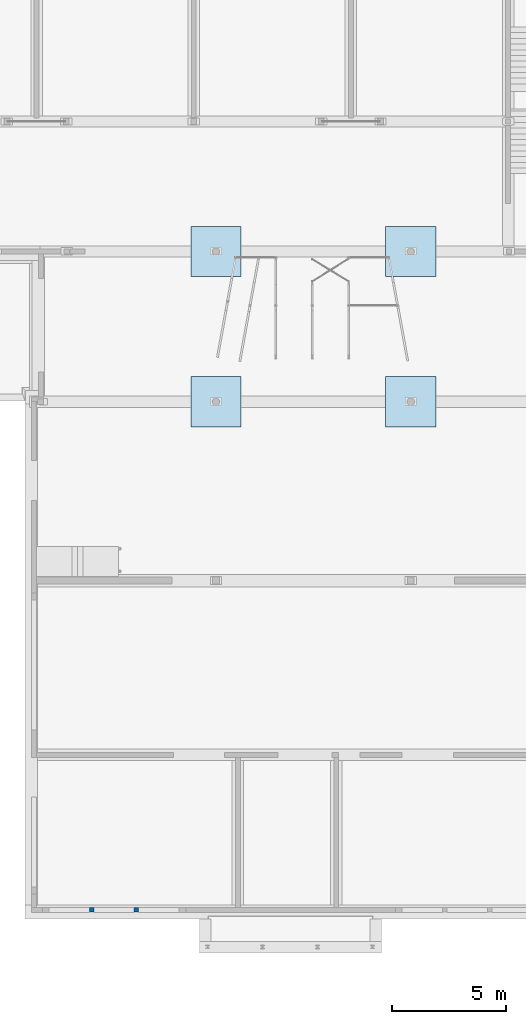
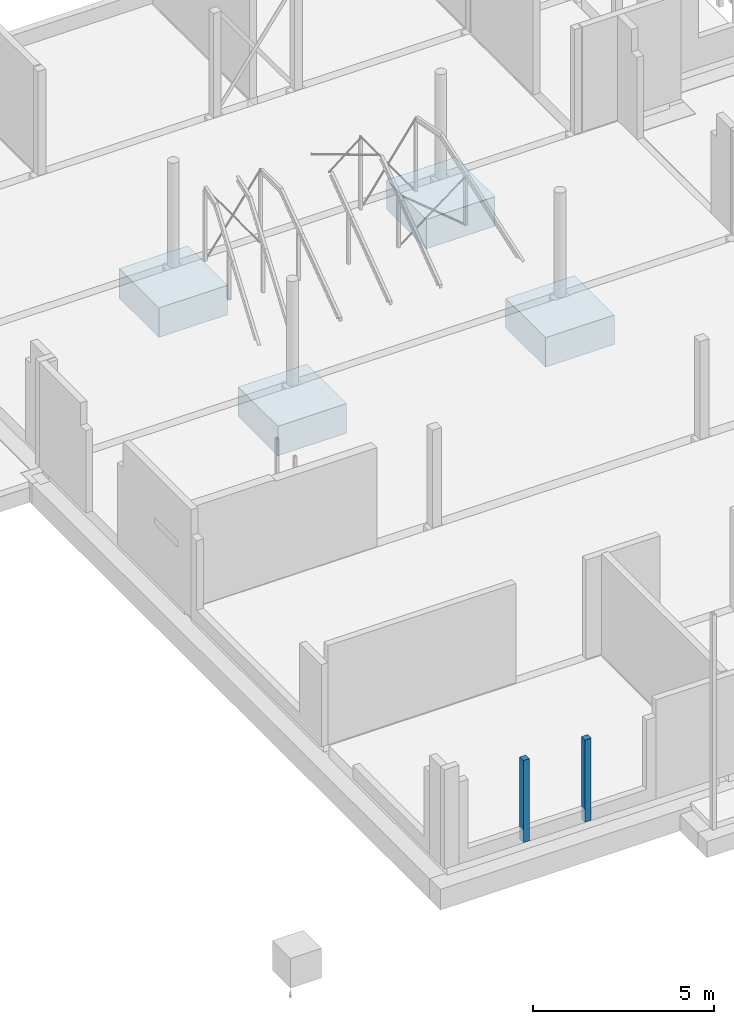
# One storey, part 1 of 17: 4 footings, 2 columns.
"""IFC2X3 building model written with IfcOpenShell, lengths in millimetres."""

from ifc_helpers import new_model, entity, si_unit, converted_unit, derived_unit, direction, frame, frame_2d, origin, place, context, subcontext, project, spatial, polyline, rectangle, outline, extrude, source, transform, mapped, material, material_list, type_object, type_shapes, element, save


model = new_model("IFC2X3")

# Units and contexts
model_context = context("Model", 3, precision=0.01, world=origin(), true_north=direction((6.123031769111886e-17, 1.0)))
body_context = subcontext(model_context, "Body", "Model", "MODEL_VIEW")
ifc_project = project(units=[si_unit("LENGTHUNIT", "METRE", prefix="MILLI"), si_unit("AREAUNIT", "SQUARE_METRE", prefix="MILLI"), si_unit("VOLUMEUNIT", "CUBIC_METRE"), converted_unit("PLANEANGLEUNIT", "DEGREE", entity("IfcPlaneAngleMeasure", 0.017453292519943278), si_unit("PLANEANGLEUNIT", "RADIAN"), dimensions=[0, 0, 0, 0, 0, 0, 0]), si_unit("MASSUNIT", "GRAM", prefix="KILO"), derived_unit("MASSDENSITYUNIT", [(si_unit("MASSUNIT", "GRAM", prefix="KILO"), 1), (si_unit("LENGTHUNIT", "METRE"), -3)]), derived_unit("IONCONCENTRATIONUNIT", [(si_unit("MASSUNIT", "GRAM", prefix="KILO"), 1), (si_unit("LENGTHUNIT", "METRE"), -3)]), derived_unit("MOMENTOFINERTIAUNIT", [(si_unit("LENGTHUNIT", "METRE"), 4)]), si_unit("TIMEUNIT", "SECOND"), si_unit("FREQUENCYUNIT", "HERTZ"), si_unit("THERMODYNAMICTEMPERATUREUNIT", "DEGREE_CELSIUS"), derived_unit("THERMALTRANSMITTANCEUNIT", [(si_unit("MASSUNIT", "GRAM", prefix="KILO"), 1), (si_unit("THERMODYNAMICTEMPERATUREUNIT", "KELVIN"), -1), (si_unit("TIMEUNIT", "SECOND"), -3)]), derived_unit("THERMALCONDUCTANCEUNIT", [(si_unit("MASSUNIT", "GRAM", prefix="KILO"), 1), (si_unit("THERMODYNAMICTEMPERATUREUNIT", "KELVIN"), -1), (si_unit("TIMEUNIT", "SECOND"), -3), (si_unit("LENGTHUNIT", "METRE"), 1)]), derived_unit("VOLUMETRICFLOWRATEUNIT", [(si_unit("LENGTHUNIT", "METRE", prefix="DECI"), 3), (si_unit("TIMEUNIT", "SECOND"), -1)]), derived_unit("MASSFLOWRATEUNIT", [(si_unit("MASSUNIT", "GRAM", prefix="KILO"), 1), (si_unit("TIMEUNIT", "SECOND"), -1)]), derived_unit("ROTATIONALFREQUENCYUNIT", [(si_unit("TIMEUNIT", "SECOND"), -1)]), si_unit("ELECTRICCURRENTUNIT", "AMPERE"), si_unit("ELECTRICVOLTAGEUNIT", "VOLT"), si_unit("POWERUNIT", "WATT"), si_unit("FORCEUNIT", "NEWTON", prefix="KILO"), si_unit("ILLUMINANCEUNIT", "LUX"), si_unit("LUMINOUSFLUXUNIT", "LUMEN"), si_unit("LUMINOUSINTENSITYUNIT", "CANDELA"), si_unit("ENERGYUNIT", "JOULE"), derived_unit("USERDEFINED", [(si_unit("MASSUNIT", "GRAM", prefix="KILO"), -1), (si_unit("LENGTHUNIT", "METRE"), -2), (si_unit("TIMEUNIT", "SECOND"), 3), (si_unit("LUMINOUSFLUXUNIT", "LUMEN"), 1)]), derived_unit("USERDEFINED", [(si_unit("MASSUNIT", "GRAM", prefix="KILO"), 1), (si_unit("TIMEUNIT", "SECOND"), -3), (si_unit("LENGTHUNIT", "METRE"), 3), (si_unit("ELECTRICCURRENTUNIT", "AMPERE"), -2)]), derived_unit("SOUNDPOWERUNIT", [(si_unit("MASSUNIT", "GRAM", prefix="KILO"), 1), (si_unit("TIMEUNIT", "SECOND"), -3), (si_unit("LENGTHUNIT", "METRE"), 2)]), derived_unit("SOUNDPRESSUREUNIT", [(si_unit("MASSUNIT", "GRAM", prefix="KILO"), 1), (si_unit("LENGTHUNIT", "METRE"), -1), (si_unit("TIMEUNIT", "SECOND"), -2)]), derived_unit("LINEARVELOCITYUNIT", [(si_unit("LENGTHUNIT", "METRE"), 1), (si_unit("TIMEUNIT", "SECOND"), -1)]), si_unit("PRESSUREUNIT", "PASCAL"), derived_unit("USERDEFINED", [(si_unit("MASSUNIT", "GRAM", prefix="KILO"), 1), (si_unit("LENGTHUNIT", "METRE"), -2), (si_unit("TIMEUNIT", "SECOND"), -2)]), derived_unit("LINEARFORCEUNIT", [(si_unit("MASSUNIT", "GRAM", prefix="KILO"), 1), (si_unit("TIMEUNIT", "SECOND"), -2)]), derived_unit("PLANARFORCEUNIT", [(si_unit("MASSUNIT", "GRAM", prefix="KILO"), 1), (si_unit("LENGTHUNIT", "METRE"), -1), (si_unit("TIMEUNIT", "SECOND"), -2)]), derived_unit("SPECIFICHEATCAPACITYUNIT", [(si_unit("THERMODYNAMICTEMPERATUREUNIT", "KELVIN"), -1), (si_unit("LENGTHUNIT", "METRE"), 2), (si_unit("TIMEUNIT", "SECOND"), -2)]), derived_unit("HEATFLUXDENSITYUNIT", [(si_unit("MASSUNIT", "GRAM", prefix="KILO"), 1), (si_unit("TIMEUNIT", "SECOND"), -3)]), derived_unit("HEATINGVALUEUNIT", [(si_unit("LENGTHUNIT", "METRE"), 2), (si_unit("TIMEUNIT", "SECOND"), -2)]), derived_unit("VAPORPERMEABILITYUNIT", [(si_unit("LENGTHUNIT", "METRE"), -1), (si_unit("TIMEUNIT", "SECOND"), 1)]), derived_unit("DYNAMICVISCOSITYUNIT", [(si_unit("MASSUNIT", "GRAM", prefix="KILO"), 1), (si_unit("TIMEUNIT", "SECOND"), -1), (si_unit("LENGTHUNIT", "METRE"), -1)]), derived_unit("THERMALEXPANSIONCOEFFICIENTUNIT", [(si_unit("THERMODYNAMICTEMPERATUREUNIT", "KELVIN"), -1)]), derived_unit("MODULUSOFELASTICITYUNIT", [(si_unit("MASSUNIT", "GRAM", prefix="KILO"), 1), (si_unit("LENGTHUNIT", "METRE"), -1), (si_unit("TIMEUNIT", "SECOND"), -2)]), derived_unit("ISOTHERMALMOISTURECAPACITYUNIT", [(si_unit("MASSUNIT", "GRAM", prefix="KILO"), -1), (si_unit("LENGTHUNIT", "METRE"), 3)]), derived_unit("MOISTUREDIFFUSIVITYUNIT", [(si_unit("TIMEUNIT", "SECOND"), -1), (si_unit("LENGTHUNIT", "METRE"), 2)]), derived_unit("MASSPERLENGTHUNIT", [(si_unit("MASSUNIT", "GRAM", prefix="KILO"), 1), (si_unit("LENGTHUNIT", "METRE"), -1)]), derived_unit("THERMALRESISTANCEUNIT", [(si_unit("MASSUNIT", "GRAM", prefix="KILO"), -1), (si_unit("TIMEUNIT", "SECOND"), 3), (si_unit("THERMODYNAMICTEMPERATUREUNIT", "KELVIN"), 1)]), derived_unit("ACCELERATIONUNIT", [(si_unit("LENGTHUNIT", "METRE"), 1), (si_unit("TIMEUNIT", "SECOND"), -2)]), derived_unit("ANGULARVELOCITYUNIT", [(si_unit("TIMEUNIT", "SECOND"), -1), (si_unit("PLANEANGLEUNIT", "RADIAN"), 1)]), derived_unit("LINEARSTIFFNESSUNIT", [(si_unit("MASSUNIT", "GRAM", prefix="KILO"), 1), (si_unit("TIMEUNIT", "SECOND"), -2)]), derived_unit("WARPINGCONSTANTUNIT", [(si_unit("LENGTHUNIT", "METRE"), 6)]), derived_unit("LINEARMOMENTUNIT", [(si_unit("MASSUNIT", "GRAM", prefix="KILO"), 1), (si_unit("LENGTHUNIT", "METRE"), 1), (si_unit("TIMEUNIT", "SECOND"), -2)]), derived_unit("TORQUEUNIT", [(si_unit("MASSUNIT", "GRAM", prefix="KILO"), 1), (si_unit("LENGTHUNIT", "METRE"), 2), (si_unit("TIMEUNIT", "SECOND"), -2)])], contexts=[model_context])

# Site, building, storey
site_placement = place(None, origin())
site = spatial("IfcSite", under=ifc_project, at=site_placement, Name="Default", CompositionType="ELEMENT")
building_placement = place(site_placement, origin())
building = spatial("IfcBuilding", under=site, at=building_placement, CompositionType="ELEMENT")
storey_placement = place(building_placement, frame((0.0, 0.0, -70.0)))
storey = spatial("IfcBuildingStorey", under=building, at=storey_placement, Name="F1 begg (bk ruwe vloer)", CompositionType="ELEMENT", Elevation=-69.99999999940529)

# Footings
ifc_material_1 = material(Name="Beton, ihwg C30/37")
type_product_1 = type_object("IfcTypeProduct", Name="btl_ihwg - Poer 4-hoek:2200x2200x1000 4pp", material=ifc_material_1)
shared_shape_1 = source(origin(), body_context, "Body", "SweptSolid", [
    extrude(rectangle(XDim=2200.0, YDim=2199.999999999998, at=frame_2d((-1.0231815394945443e-12, -2.1600499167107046e-12), x_axis=(1.0, 0.0))), frame((14699.863108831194, 25344.60501307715, -1480.0), z_axis=(0.0, 0.0, 1.0), x_axis=(-1.0, 0.0, 0.0)), (0.0, 0.0, 1.0), 1000.0000000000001),
])
type_shapes(type_product_1, [shared_shape_1])
footing_1_placement = place(storey_placement, frame((0.0, 0.0, 70.0)))
element("IfcFooting", 1, at=footing_1_placement, inside=storey, type_object=type_product_1, material=ifc_material_1, Name="btl_ihwg - Poer 4-hoek:2200x2200x1000 4pp", ObjectType="btl_ihwg - Poer 4-hoek:2200x2200x1000 4pp", PredefinedType="NOTDEFINED", context=body_context, shape_type="MappedRepresentation", body=[
    mapped(shared_shape_1, transform((0.0, 0.0, 0.0), scale=1.0)),
])
type_product_2 = type_object("IfcTypeProduct", Name="btl_ihwg - Poer 4-hoek:2200x2200x1000 4pp", material=ifc_material_1)
shared_shape_2 = source(origin(), body_context, "Body", "SweptSolid", [
    extrude(rectangle(XDim=2199.999999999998, YDim=2199.999999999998, at=frame_2d((2.1600499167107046e-12, 2.1600499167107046e-12), x_axis=(1.0, 0.0))), frame((23249.98660715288, 25344.60501307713, -1480.0), z_axis=(0.0, 0.0, 1.0), x_axis=(-1.0, 0.0, 0.0)), (0.0, 0.0, 1.0), 1000.0000000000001),
])
type_shapes(type_product_2, [shared_shape_2])
footing_2_placement = place(storey_placement, frame((0.0, 0.0, 70.0)))
element("IfcFooting", 2, at=footing_2_placement, inside=storey, type_object=type_product_2, material=ifc_material_1, Name="btl_ihwg - Poer 4-hoek:2200x2200x1000 4pp", ObjectType="btl_ihwg - Poer 4-hoek:2200x2200x1000 4pp", PredefinedType="NOTDEFINED", context=body_context, shape_type="MappedRepresentation", body=[
    mapped(shared_shape_2, transform((0.0, 0.0, 0.0), scale=1.0)),
])
type_product_3 = type_object("IfcTypeProduct", Name="btl_ihwg - Poer 4-hoek:2200x2200x1000 4pp", material=ifc_material_1)
shared_shape_3 = source(origin(), body_context, "Body", "SweptSolid", [
    extrude(rectangle(XDim=2200.0, YDim=2199.999999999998, at=frame_2d((1.0231815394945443e-12, 2.1600499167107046e-12), x_axis=(1.0, 0.0))), frame((14699.863108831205, 31937.573165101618, -1480.0), z_axis=(0.0, 0.0, 1.0), x_axis=(-1.0, 0.0, 0.0)), (0.0, 0.0, 1.0), 1000.0000000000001),
])
type_shapes(type_product_3, [shared_shape_3])
footing_3_placement = place(storey_placement, frame((0.0, 0.0, 70.0)))
element("IfcFooting", 3, at=footing_3_placement, inside=storey, type_object=type_product_3, material=ifc_material_1, Name="btl_ihwg - Poer 4-hoek:2200x2200x1000 4pp", ObjectType="btl_ihwg - Poer 4-hoek:2200x2200x1000 4pp", PredefinedType="NOTDEFINED", context=body_context, shape_type="MappedRepresentation", body=[
    mapped(shared_shape_3, transform((0.0, 0.0, 0.0), scale=1.0)),
])
type_product_4 = type_object("IfcTypeProduct", Name="btl_ihwg - Poer 4-hoek:2200x2200x1000 4pp", material=ifc_material_1)
shared_shape_4 = source(origin(), body_context, "Body", "SweptSolid", [
    extrude(rectangle(XDim=2199.999999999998, YDim=2199.999999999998, at=frame_2d((2.1600499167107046e-12, -2.1600499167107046e-12), x_axis=(1.0, 0.0))), frame((23249.98660715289, 31937.57316510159, -1480.0), z_axis=(0.0, 0.0, 1.0), x_axis=(-1.0, 0.0, 0.0)), (0.0, 0.0, 1.0), 1000.0000000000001),
])
type_shapes(type_product_4, [shared_shape_4])
footing_4_placement = place(storey_placement, frame((0.0, 0.0, 70.0)))
element("IfcFooting", 4, at=footing_4_placement, inside=storey, type_object=type_product_4, material=ifc_material_1, Name="btl_ihwg - Poer 4-hoek:2200x2200x1000 4pp", ObjectType="btl_ihwg - Poer 4-hoek:2200x2200x1000 4pp", PredefinedType="NOTDEFINED", context=body_context, shape_type="MappedRepresentation", body=[
    mapped(shared_shape_4, transform((0.0, 0.0, 0.0), scale=1.0)),
])

# Columns
ifc_material_2 = material(Name="Concrete - Cast-in-Place - C30/37")
ifc_material_3 = material(Name="Metal - Steel - S275 J0H (standaard-kokers/buizen)")
ifc_material_list = material_list([ifc_material_2, ifc_material_3])
column_type_1 = type_object("IfcColumnType", Name="btk_staal - Koker + beton:K200x200x8", PredefinedType="COLUMN", material=ifc_material_list)
shared_shape_5 = source(origin(), body_context, "Body", "SweptSolid", [
    extrude(rectangle(XDim=184.0000000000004, YDim=183.99999999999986, at=frame_2d((5.400124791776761e-13, -2.7000623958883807e-13), x_axis=(1.0, 0.0))), frame((9240.144912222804, 3037.6050130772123, -70.0), z_axis=(0.0, 0.0, 1.0), x_axis=(-1.0, 0.0, 0.0)), (0.0, 0.0, 1.0), 2777.9999999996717),
    extrude(outline(polyline([(-100.0, -100.0), (100.0, -100.0), (100.0, 100.0), (-100.0, 100.0), (-100.0, -100.0)]), holes=[polyline([(-92.0, -92.0), (-92.0, 92.0), (92.0, 92.0), (92.0, -92.0), (-92.0, -92.0)])]), frame((9240.144912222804, 3037.6050130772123, -70.0), z_axis=(0.0, 0.0, 1.0), x_axis=(-1.0, 0.0, 0.0)), (0.0, 0.0, 1.0), 2777.9999999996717),
])
type_shapes(column_type_1, [shared_shape_5])
column_1_placement = place(storey_placement, frame((0.0, 0.0, 70.0)))
element("IfcColumn", 5, at=column_1_placement, inside=storey, type_object=column_type_1, material=ifc_material_list, Name="btk_staal - Koker + beton:K200x200x8", ObjectType="btk_staal - Koker + beton:K200x200x8", context=body_context, shape_type="MappedRepresentation", body=[
    mapped(shared_shape_5, transform((0.0, 0.0, 0.0), scale=1.0)),
])
column_type_2 = type_object("IfcColumnType", Name="btk_staal - Koker + beton:K200x200x8", PredefinedType="COLUMN", material=ifc_material_list)
shared_shape_6 = source(origin(), body_context, "Body", "SweptSolid", [
    extrude(rectangle(XDim=183.99999999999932, YDim=183.99999999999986, at=frame_2d((1.0800249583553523e-12, -2.7000623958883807e-13), x_axis=(1.0, 0.0))), frame((11209.97394152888, 3037.605013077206, -70.0), z_axis=(0.0, 0.0, 1.0), x_axis=(-1.0, 0.0, 0.0)), (0.0, 0.0, 1.0), 2777.9999999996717),
    extrude(outline(polyline([(-100.0, -100.0), (100.0, -100.0), (100.0, 100.0), (-100.0, 100.0), (-100.0, -100.0)]), holes=[polyline([(-92.0, -92.0), (-92.0, 92.0), (92.0, 92.0), (92.0, -92.0), (-92.0, -92.0)])]), frame((11209.97394152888, 3037.605013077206, -70.0), z_axis=(0.0, 0.0, 1.0), x_axis=(-1.0, 0.0, 0.0)), (0.0, 0.0, 1.0), 2777.9999999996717),
])
type_shapes(column_type_2, [shared_shape_6])
column_2_placement = place(storey_placement, frame((0.0, 0.0, 70.0)))
element("IfcColumn", 6, at=column_2_placement, inside=storey, type_object=column_type_2, material=ifc_material_list, Name="btk_staal - Koker + beton:K200x200x8", ObjectType="btk_staal - Koker + beton:K200x200x8", context=body_context, shape_type="MappedRepresentation", body=[
    mapped(shared_shape_6, transform((0.0, 0.0, 0.0), scale=1.0)),
])

save(model, "model.ifc")
